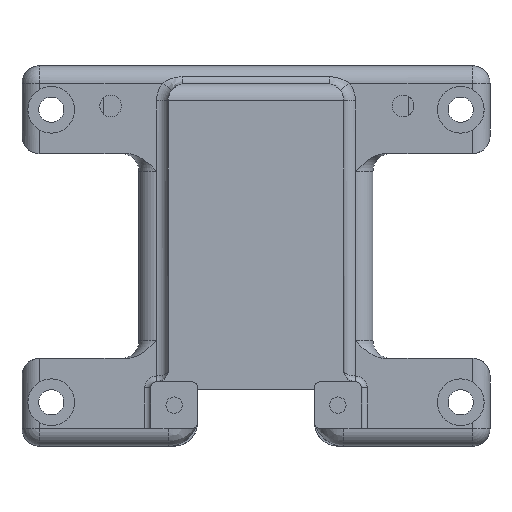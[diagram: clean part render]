
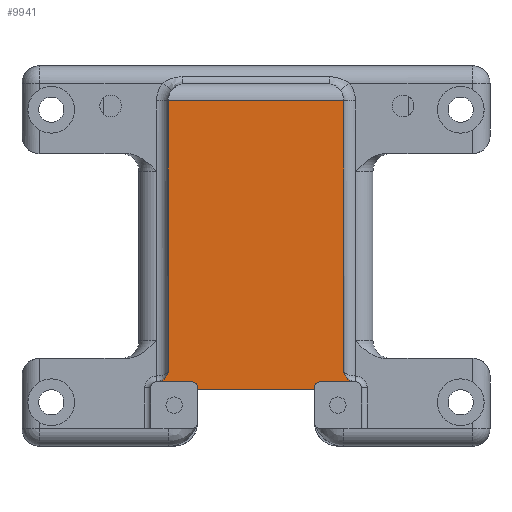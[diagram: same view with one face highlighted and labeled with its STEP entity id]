
A CAD part, front view. The second image highlights one B-rep face of the part: STEP entity #9941.
In plain terms, the highlighted planar face has unit normal (0, -1, 0).
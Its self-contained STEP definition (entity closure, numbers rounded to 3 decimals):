
#68 = ORIENTED_EDGE ( 'NONE', *, *, #5680, .F. ) ;
#147 = CARTESIAN_POINT ( 'NONE',  ( 8.203, -4., -41.273 ) ) ;
#221 = VECTOR ( 'NONE', #6623, 1000. ) ;
#247 = DIRECTION ( 'NONE',  ( 0., 0., 1. ) ) ;
#250 = CARTESIAN_POINT ( 'NONE',  ( 8.203, -4., 7.727 ) ) ;
#311 = LINE ( 'NONE', #4993, #4315 ) ;
#314 = AXIS2_PLACEMENT_3D ( 'NONE', #5972, #11450, #6713 ) ;
#348 = VERTEX_POINT ( 'NONE', #358 ) ;
#358 = CARTESIAN_POINT ( 'NONE',  ( -23.797, -4., -40.273 ) ) ;
#361 = DIRECTION ( 'NONE',  ( 0., -1., 0. ) ) ;
#442 = VECTOR ( 'NONE', #6695, 1000. ) ;
#475 = VERTEX_POINT ( 'NONE', #5519 ) ;
#514 = CIRCLE ( 'NONE', #314, 1. ) ;
#763 = ORIENTED_EDGE ( 'NONE', *, *, #5062, .F. ) ;
#791 = ORIENTED_EDGE ( 'NONE', *, *, #6095, .F. ) ;
#889 = CARTESIAN_POINT ( 'NONE',  ( -23.797, -4., -38.273 ) ) ;
#965 = VERTEX_POINT ( 'NONE', #6553 ) ;
#1088 = LINE ( 'NONE', #8651, #442 ) ;
#1198 = CARTESIAN_POINT ( 'NONE',  ( 0., -4., 0. ) ) ;
#1212 = VERTEX_POINT ( 'NONE', #4091 ) ;
#1225 = CIRCLE ( 'NONE', #1596, 1. ) ;
#1310 = EDGE_CURVE ( 'NONE', #1212, #348, #8199, .T. ) ;
#1487 = CARTESIAN_POINT ( 'NONE',  ( -24.797, -4., -40.273 ) ) ;
#1596 = AXIS2_PLACEMENT_3D ( 'NONE', #8665, #361, #247 ) ;
#1741 = ORIENTED_EDGE ( 'NONE', *, *, #1310, .F. ) ;
#1890 = VERTEX_POINT ( 'NONE', #3081 ) ;
#1916 = AXIS2_PLACEMENT_3D ( 'NONE', #889, #8455, #3915 ) ;
#1968 = EDGE_CURVE ( 'NONE', #10683, #7699, #311, .T. ) ;
#2161 = VERTEX_POINT ( 'NONE', #10029 ) ;
#2344 = CARTESIAN_POINT ( 'NONE',  ( -21.797, -4., 8.727 ) ) ;
#2364 = ORIENTED_EDGE ( 'NONE', *, *, #8289, .T. ) ;
#2780 = CARTESIAN_POINT ( 'NONE',  ( 8.203, -4., -38.273 ) ) ;
#2915 = LINE ( 'NONE', #147, #8426 ) ;
#2984 = EDGE_CURVE ( 'NONE', #11169, #10683, #2915, .T. ) ;
#3081 = CARTESIAN_POINT ( 'NONE',  ( -21.797, -4., -38.273 ) ) ;
#3163 = DIRECTION ( 'NONE',  ( 1., 0., 0. ) ) ;
#3294 = ORIENTED_EDGE ( 'NONE', *, *, #2984, .T. ) ;
#3333 = LINE ( 'NONE', #2344, #3377 ) ;
#3377 = VECTOR ( 'NONE', #5067, 1000. ) ;
#3489 = ORIENTED_EDGE ( 'NONE', *, *, #1968, .T. ) ;
#3521 = DIRECTION ( 'NONE',  ( -1., 0., 0. ) ) ;
#3781 = EDGE_CURVE ( 'NONE', #9156, #2161, #1088, .T. ) ;
#3915 = DIRECTION ( 'NONE',  ( 0., 0., 1. ) ) ;
#4091 = CARTESIAN_POINT ( 'NONE',  ( -17.797, -4., -40.273 ) ) ;
#4117 = CARTESIAN_POINT ( 'NONE',  ( -21.797, -4., 7.727 ) ) ;
#4315 = VECTOR ( 'NONE', #7823, 1000. ) ;
#4730 = CARTESIAN_POINT ( 'NONE',  ( 10.203, -4., -38.273 ) ) ;
#4993 = CARTESIAN_POINT ( 'NONE',  ( -21.797, -4., 7.727 ) ) ;
#5062 = EDGE_CURVE ( 'NONE', #2161, #1212, #1225, .T. ) ;
#5067 = DIRECTION ( 'NONE',  ( 0., 0., -1. ) ) ;
#5079 = CARTESIAN_POINT ( 'NONE',  ( -65.186, -4., -41.57 ) ) ;
#5519 = CARTESIAN_POINT ( 'NONE',  ( 3.203, -4., -41.57 ) ) ;
#5680 = EDGE_CURVE ( 'NONE', #965, #8152, #10447, .T. ) ;
#5936 = DIRECTION ( 'NONE',  ( 0., 0., 1. ) ) ;
#5972 = CARTESIAN_POINT ( 'NONE',  ( 4.203, -4., -41.273 ) ) ;
#6095 = EDGE_CURVE ( 'NONE', #8152, #8563, #514, .T. ) ;
#6553 = CARTESIAN_POINT ( 'NONE',  ( 10.203, -4., -40.273 ) ) ;
#6623 = DIRECTION ( 'NONE',  ( -1., 0., 0. ) ) ;
#6695 = DIRECTION ( 'NONE',  ( 0., 0., 1. ) ) ;
#6713 = DIRECTION ( 'NONE',  ( 0., 0., 1. ) ) ;
#6965 = EDGE_CURVE ( 'NONE', #9156, #475, #10865, .T. ) ;
#7070 = CARTESIAN_POINT ( 'NONE',  ( -16.797, -4., -41.57 ) ) ;
#7081 = ORIENTED_EDGE ( 'NONE', *, *, #11247, .T. ) ;
#7227 = CIRCLE ( 'NONE', #1916, 2. ) ;
#7357 = ORIENTED_EDGE ( 'NONE', *, *, #9824, .T. ) ;
#7496 = DIRECTION ( 'NONE',  ( 0., 0., 1. ) ) ;
#7529 = DIRECTION ( 'NONE',  ( 0., 0., 1. ) ) ;
#7569 = CARTESIAN_POINT ( 'NONE',  ( 3.203, -4., -41.273 ) ) ;
#7699 = VERTEX_POINT ( 'NONE', #4117 ) ;
#7783 = DIRECTION ( 'NONE',  ( 0., 1., 0. ) ) ;
#7811 = CIRCLE ( 'NONE', #11343, 2. ) ;
#7823 = DIRECTION ( 'NONE',  ( -1., 0., 0. ) ) ;
#8015 = AXIS2_PLACEMENT_3D ( 'NONE', #1198, #7783, #5936 ) ;
#8147 = CARTESIAN_POINT ( 'NONE',  ( 4.203, -4., -40.273 ) ) ;
#8152 = VERTEX_POINT ( 'NONE', #8147 ) ;
#8199 = LINE ( 'NONE', #1487, #11117 ) ;
#8289 = EDGE_CURVE ( 'NONE', #7699, #1890, #3333, .T. ) ;
#8426 = VECTOR ( 'NONE', #7529, 1000. ) ;
#8455 = DIRECTION ( 'NONE',  ( 0., 1., 0. ) ) ;
#8526 = ORIENTED_EDGE ( 'NONE', *, *, #6965, .T. ) ;
#8563 = VERTEX_POINT ( 'NONE', #7569 ) ;
#8641 = FACE_OUTER_BOUND ( 'NONE', #12137, .T. ) ;
#8651 = CARTESIAN_POINT ( 'NONE',  ( -16.797, -4., 6.727 ) ) ;
#8665 = CARTESIAN_POINT ( 'NONE',  ( -17.797, -4., -41.273 ) ) ;
#8977 = EDGE_CURVE ( 'NONE', #965, #11169, #7811, .T. ) ;
#9156 = VERTEX_POINT ( 'NONE', #7070 ) ;
#9381 = CARTESIAN_POINT ( 'NONE',  ( 11.203, -4., -40.273 ) ) ;
#9628 = PLANE ( 'NONE',  #8015 ) ;
#9752 = VECTOR ( 'NONE', #10367, 1000. ) ;
#9824 = EDGE_CURVE ( 'NONE', #1890, #348, #7227, .T. ) ;
#9941 = ADVANCED_FACE ( 'NONE', ( #8641 ), #9628, .F. ) ;
#10029 = CARTESIAN_POINT ( 'NONE',  ( -16.797, -4., -41.273 ) ) ;
#10367 = DIRECTION ( 'NONE',  ( 0., 0., 1. ) ) ;
#10447 = LINE ( 'NONE', #9381, #221 ) ;
#10530 = ORIENTED_EDGE ( 'NONE', *, *, #3781, .F. ) ;
#10683 = VERTEX_POINT ( 'NONE', #250 ) ;
#10865 = LINE ( 'NONE', #5079, #11709 ) ;
#11117 = VECTOR ( 'NONE', #3521, 1000. ) ;
#11169 = VERTEX_POINT ( 'NONE', #2780 ) ;
#11247 = EDGE_CURVE ( 'NONE', #475, #8563, #12142, .T. ) ;
#11343 = AXIS2_PLACEMENT_3D ( 'NONE', #4730, #12177, #7496 ) ;
#11347 = CARTESIAN_POINT ( 'NONE',  ( 3.203, -4., 6.727 ) ) ;
#11362 = ORIENTED_EDGE ( 'NONE', *, *, #8977, .T. ) ;
#11450 = DIRECTION ( 'NONE',  ( 0., -1., 0. ) ) ;
#11709 = VECTOR ( 'NONE', #3163, 1000. ) ;
#12137 = EDGE_LOOP ( 'NONE', ( #68, #11362, #3294, #3489, #2364, #7357, #1741, #763, #10530, #8526, #7081, #791 ) ) ;
#12142 = LINE ( 'NONE', #11347, #9752 ) ;
#12177 = DIRECTION ( 'NONE',  ( 0., 1., 0. ) ) ;
